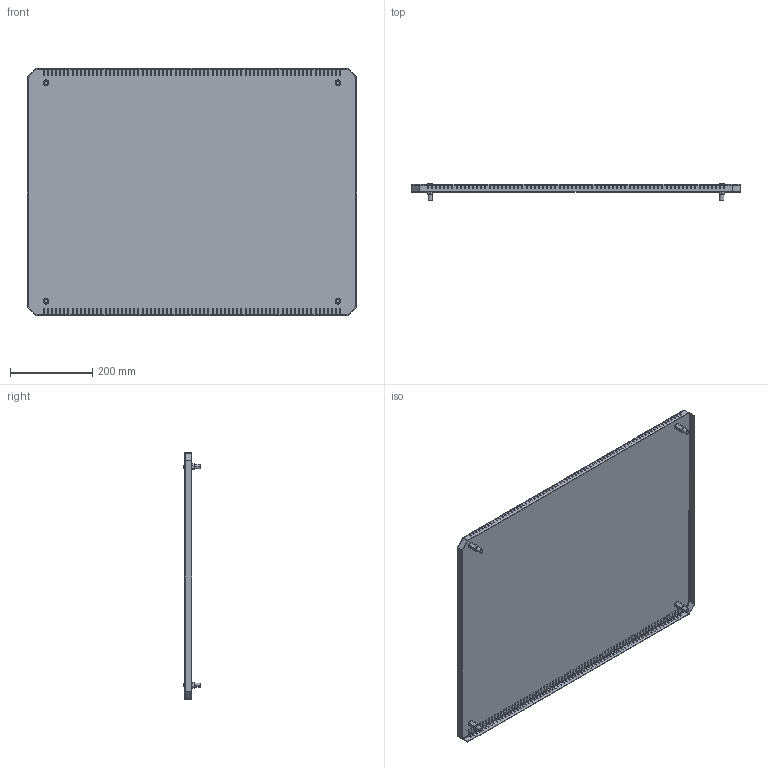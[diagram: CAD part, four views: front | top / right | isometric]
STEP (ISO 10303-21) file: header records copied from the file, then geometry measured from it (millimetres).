
FILE_DESCRIPTION (( 'STEP AP203' ), '1' );
FILE_NAME ('R 80.60 I Ïàíåëü òåëåêîììóíèêàöèîííàÿ ïîòîëî÷íàÿ.STEP', '2013-01-12T08:43:58', ( 'System' ), ( '' ), 'SwSTEP 2.0', 'SolidWorks 2012', '' );
FILE_SCHEMA (( 'CONFIG_CONTROL_DESIGN' ));
Products named in the file (1): R 80.60 I Ïàíåëü òåëåêîììóíèêàöèîííàÿ ïîòîëî÷íàÿ
Bounding box: 800 x 42.72 x 600 mm (x, y, z)
Volume: 635265.3 mm3; surface area: 1050214.7 mm2
Topology: 5 solids, 9 shells, 1754 faces, 4752 edges, 2728 vertices
Faces by surface type: plane 1310, cylinder 348, cone 56, bspline 16, torus 16, sphere 8
Entity records: 54709 total; most frequent: CARTESIAN_POINT 10615, ORIENTED_EDGE 9472, DIRECTION 8896, EDGE_CURVE 4736, VECTOR 3818, LINE 3818, VERTEX_POINT 2728, AXIS2_PLACEMENT_3D 2539
